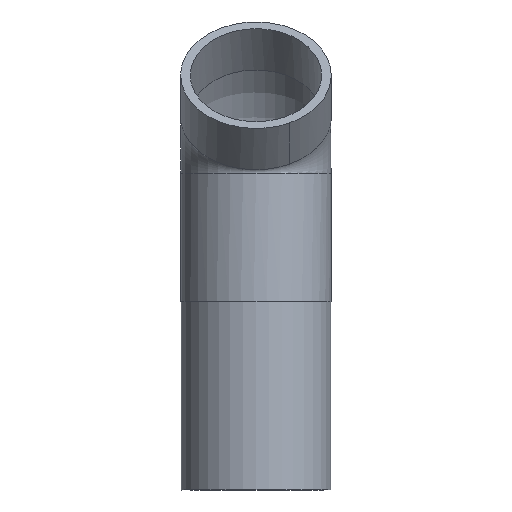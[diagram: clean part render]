
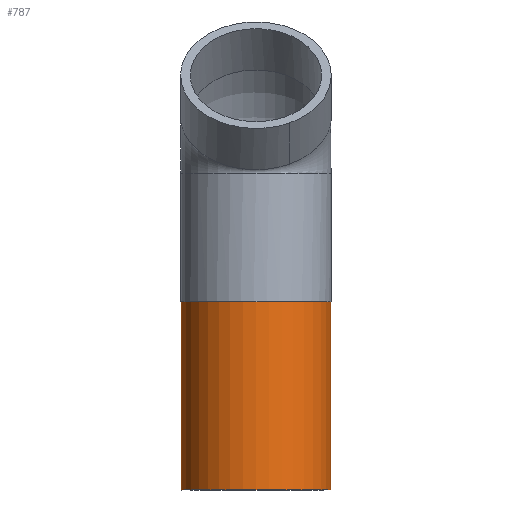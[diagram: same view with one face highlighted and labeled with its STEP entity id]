
A CAD part, front view. The second image highlights one B-rep face of the part: STEP entity #787.
In plain terms, the highlighted cylindrical face has radius 45 mm (diameter 90 mm), a full revolution.
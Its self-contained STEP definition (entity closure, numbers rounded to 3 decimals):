
#46=FACE_BOUND('',#164,.T.);
#60=CYLINDRICAL_SURFACE('',#877,45.);
#106=FACE_OUTER_BOUND('',#163,.T.);
#163=EDGE_LOOP('',(#680));
#164=EDGE_LOOP('',(#681));
#198=CIRCLE('',#871,45.);
#200=CIRCLE('',#875,45.);
#362=VERTEX_POINT('',#5492);
#364=VERTEX_POINT('',#5498);
#468=EDGE_CURVE('',#362,#362,#198,.T.);
#470=EDGE_CURVE('',#364,#364,#200,.T.);
#680=ORIENTED_EDGE('',*,*,#468,.T.);
#681=ORIENTED_EDGE('',*,*,#470,.F.);
#787=ADVANCED_FACE('',(#106,#46),#60,.T.);
#871=AXIS2_PLACEMENT_3D('',#5493,#1026,#1027);
#875=AXIS2_PLACEMENT_3D('',#5499,#1034,#1035);
#877=AXIS2_PLACEMENT_3D('',#5502,#1038,#1039);
#1026=DIRECTION('center_axis',(0.,0.,-1.));
#1027=DIRECTION('ref_axis',(-1.,0.,0.));
#1034=DIRECTION('center_axis',(0.,0.,
-1.));
#1035=DIRECTION('ref_axis',(-1.,0.,0.));
#1038=DIRECTION('center_axis',(0.,0.,-1.));
#1039=DIRECTION('ref_axis',(-1.,0.,0.));
#5492=CARTESIAN_POINT('',(-45.,0.,113.));
#5493=CARTESIAN_POINT('Origin',(0.,0.,
113.));
#5498=CARTESIAN_POINT('',(-45.,0.,0.));
#5499=CARTESIAN_POINT('Origin',(0.,0.,
0.));
#5502=CARTESIAN_POINT('Origin',(0.,0.,
-1384.));
